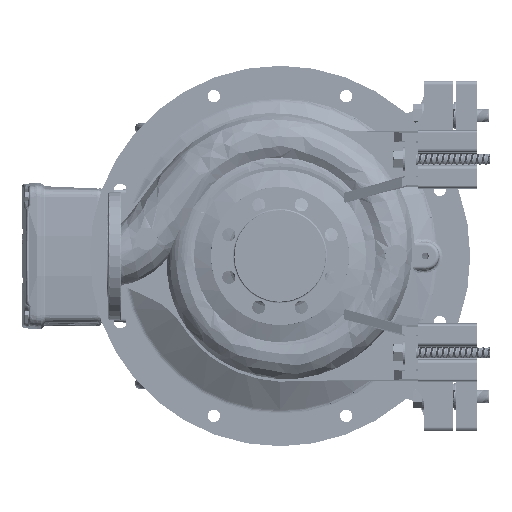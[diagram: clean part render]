
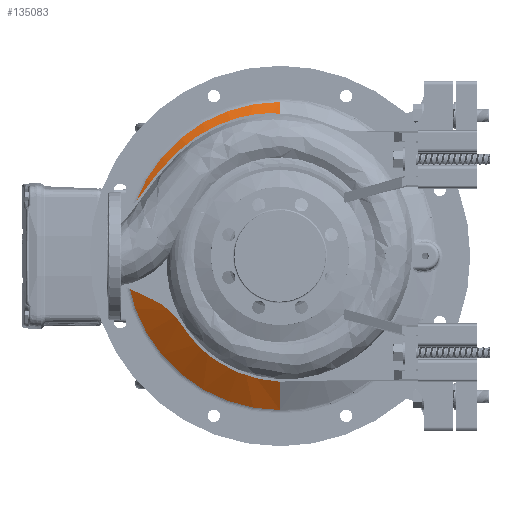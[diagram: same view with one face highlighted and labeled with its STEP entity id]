
A CAD part, left-side view. The second image highlights one B-rep face of the part: STEP entity #135083.
In plain terms, the highlighted conical face has half-angle 60 degrees and reference radius 222.68 mm.
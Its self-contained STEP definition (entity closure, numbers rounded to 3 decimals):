
#6114 = FACE_OUTER_BOUND ( 'NONE', #118959, .T. ) ;
#19819 = CARTESIAN_POINT ( 'NONE',  ( 201.648, 0., 94.489 ) ) ;
#21458 = AXIS2_PLACEMENT_3D ( 'NONE', #41543, #97048, #55837 ) ;
#22480 = LINE ( 'NONE', #66265, #82681 ) ;
#24707 = CARTESIAN_POINT ( 'NONE',  ( 201.648, 0.197, 94.489 ) ) ;
#26981 = CARTESIAN_POINT ( 'NONE',  ( 201.648, 0., -94.487 ) ) ;
#37290 = CARTESIAN_POINT ( 'NONE',  ( 275.66, 0., -222.679 ) ) ;
#38714 = CIRCLE ( 'NONE', #21458, 94.488 ) ;
#40635 = AXIS2_PLACEMENT_3D ( 'NONE', #73758, #117633, #46032 ) ;
#41543 = CARTESIAN_POINT ( 'NONE',  ( 201.648, 0., 0.001 ) ) ;
#46032 = DIRECTION ( 'NONE',  ( 0., 0., 1. ) ) ;
#47689 = EDGE_CURVE ( 'NONE', #70474, #131472, #112143, .T. ) ;
#55837 = DIRECTION ( 'NONE',  ( 0., 0., 1. ) ) ;
#58863 = CARTESIAN_POINT ( 'NONE',  ( 275.66, 0., 222.681 ) ) ;
#59365 = EDGE_CURVE ( 'NONE', #90526, #137314, #22480, .T. ) ;
#62477 = DIRECTION ( 'NONE',  ( 0., 0., -1. ) ) ;
#63405 = VERTEX_POINT ( 'NONE', #67425 ) ;
#65030 = EDGE_CURVE ( 'NONE', #159689, #90526, #160317, .T. ) ;
#66265 = CARTESIAN_POINT ( 'NONE',  ( 275.66, 0., 222.681 ) ) ;
#67381 = ORIENTED_EDGE ( 'NONE', *, *, #59365, .T. ) ;
#67425 = CARTESIAN_POINT ( 'NONE',  ( 201.648, 0.296, -94.487 ) ) ;
#70474 = VERTEX_POINT ( 'NONE', #79933 ) ;
#73758 = CARTESIAN_POINT ( 'NONE',  ( 275.66, 0., 0.001 ) ) ;
#77581 = CARTESIAN_POINT ( 'NONE',  ( 201.648, 0.099, 94.489 ) ) ;
#79544 = ORIENTED_EDGE ( 'NONE', *, *, #47689, .F. ) ;
#79933 = CARTESIAN_POINT ( 'NONE',  ( 201.648, 0., -94.487 ) ) ;
#80801 = EDGE_CURVE ( 'NONE', #137314, #131472, #115070, .T. ) ;
#82681 = VECTOR ( 'NONE', #131758, 1000. ) ;
#89307 = CARTESIAN_POINT ( 'NONE',  ( 201.648, 0.296, 94.489 ) ) ;
#90526 = VERTEX_POINT ( 'NONE', #19819 ) ;
#97048 = DIRECTION ( 'NONE',  ( -1., 0., 0. ) ) ;
#112143 = LINE ( 'NONE', #127364, #112279 ) ;
#112279 = VECTOR ( 'NONE', #166829, 1000. ) ;
#115070 = CIRCLE ( 'NONE', #40635, 222.68 ) ;
#117633 = DIRECTION ( 'NONE',  ( -1., 0., 0. ) ) ;
#118090 = EDGE_CURVE ( 'NONE', #159689, #63405, #38714, .T. ) ;
#118959 = EDGE_LOOP ( 'NONE', ( #142150, #67381, #158410, #79544, #124618, #133630 ) ) ;
#119295 = CARTESIAN_POINT ( 'NONE',  ( 201.648, 0.099, -94.487 ) ) ;
#124540 = EDGE_CURVE ( 'NONE', #63405, #70474, #168528, .T. ) ;
#124618 = ORIENTED_EDGE ( 'NONE', *, *, #124540, .F. ) ;
#127364 = CARTESIAN_POINT ( 'NONE',  ( 275.66, 0., -222.679 ) ) ;
#131336 = CARTESIAN_POINT ( 'NONE',  ( 201.648, 0.296, 94.489 ) ) ;
#131472 = VERTEX_POINT ( 'NONE', #37290 ) ;
#131758 = DIRECTION ( 'NONE',  ( 0.5, 0., 0.866 ) ) ;
#133630 = ORIENTED_EDGE ( 'NONE', *, *, #118090, .F. ) ;
#134498 = CARTESIAN_POINT ( 'NONE',  ( 201.648, 0.197, -94.487 ) ) ;
#135083 = ADVANCED_FACE ( 'NONE', ( #6114 ), #151800, .T. ) ;
#137314 = VERTEX_POINT ( 'NONE', #58863 ) ;
#142150 = ORIENTED_EDGE ( 'NONE', *, *, #65030, .T. ) ;
#151800 = CONICAL_SURFACE ( 'NONE', #163218, 222.68, 1.047 ) ;
#158410 = ORIENTED_EDGE ( 'NONE', *, *, #80801, .T. ) ;
#159689 = VERTEX_POINT ( 'NONE', #89307 ) ;
#160152 = CARTESIAN_POINT ( 'NONE',  ( 275.66, 0., 0.001 ) ) ;
#160317 = B_SPLINE_CURVE_WITH_KNOTS ( 'NONE', 3,
 ( #131336, #24707, #77581, #172612 ),
 .UNSPECIFIED., .F., .F.,
 ( 4, 4 ),
 ( 0., 0.5 ),
 .UNSPECIFIED. ) ;
#163218 = AXIS2_PLACEMENT_3D ( 'NONE', #160152, #173596, #62477 ) ;
#164097 = CARTESIAN_POINT ( 'NONE',  ( 201.648, 0.296, -94.487 ) ) ;
#166829 = DIRECTION ( 'NONE',  ( 0.5, 0., -0.866 ) ) ;
#168528 = B_SPLINE_CURVE_WITH_KNOTS ( 'NONE', 3,
 ( #164097, #134498, #119295, #26981 ),
 .UNSPECIFIED., .F., .F.,
 ( 4, 4 ),
 ( 0., 0.5 ),
 .UNSPECIFIED. ) ;
#172612 = CARTESIAN_POINT ( 'NONE',  ( 201.648, 0., 94.489 ) ) ;
#173596 = DIRECTION ( 'NONE',  ( 1., 0., 0. ) ) ;
